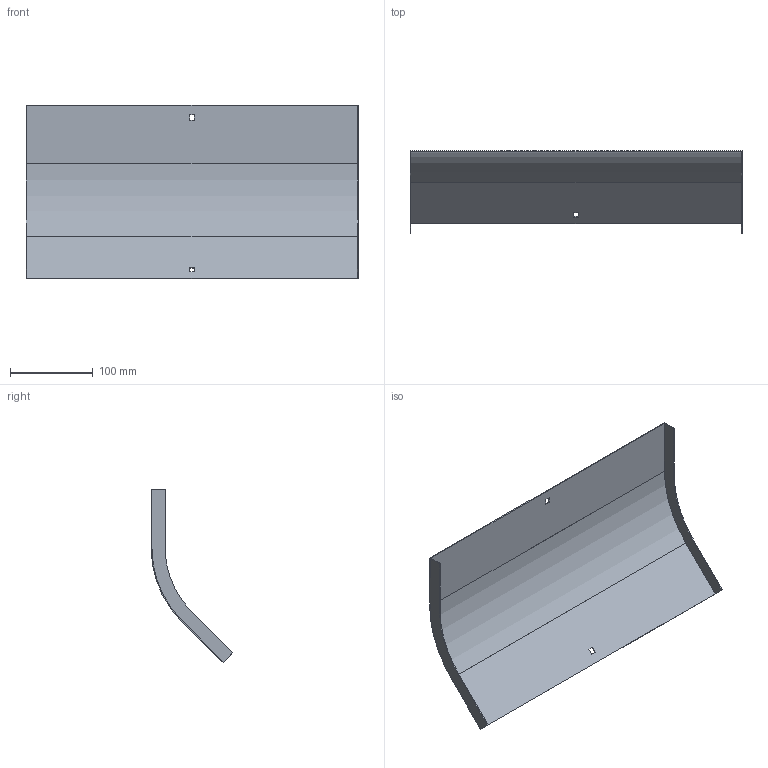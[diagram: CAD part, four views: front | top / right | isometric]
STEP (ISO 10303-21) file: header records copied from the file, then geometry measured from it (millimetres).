
FILE_DESCRIPTION (( 'STEP AP214' ), '1' );
FILE_NAME ('OD4_407.step', '2025-07-16T09:12:06', ( '' ), ( '' ), 'SwSTEP 2.0', 'SolidWorks 2023', '' );
FILE_SCHEMA (( 'AUTOMOTIVE_DESIGN' ));
Length unit declared in the file: millimetre
Products named in the file (1): OD4_407
Bounding box: 402 x 99.13 x 210.3 mm (x, y, z)
Volume: 104108.7 mm3; surface area: 209593.3 mm2
Topology: 1 solids, 1 shells, 26 faces, 72 edges, 48 vertices
Faces by surface type: plane 22, cylinder 4
Entity records: 855 total; most frequent: CARTESIAN_POINT 147, ORIENTED_EDGE 144, DIRECTION 134, EDGE_CURVE 72, VECTOR 64, LINE 64, VERTEX_POINT 48, AXIS2_PLACEMENT_3D 35
